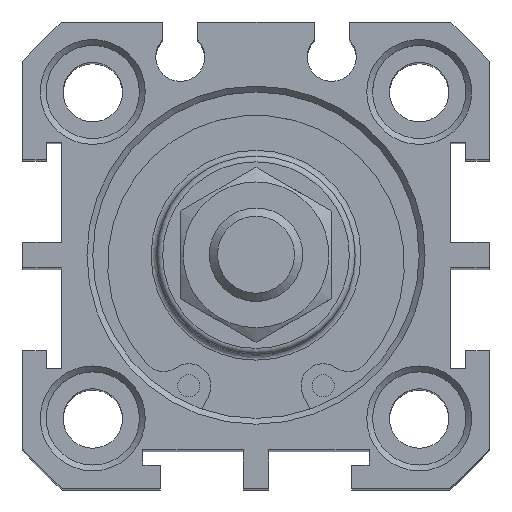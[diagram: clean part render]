
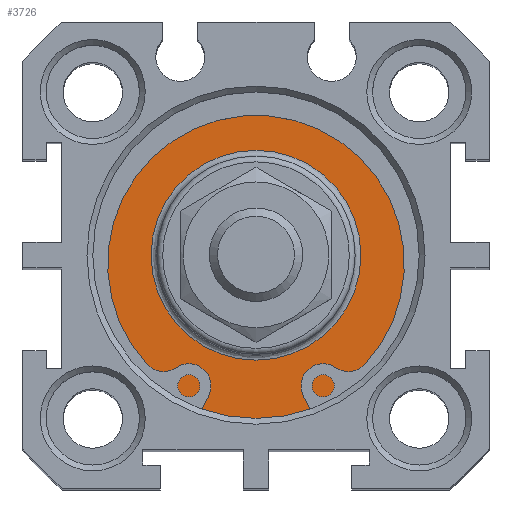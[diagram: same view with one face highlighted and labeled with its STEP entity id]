
A CAD part, top view. The second image highlights one B-rep face of the part: STEP entity #3726.
In plain terms, the highlighted planar face has unit normal (0, 0, 1).
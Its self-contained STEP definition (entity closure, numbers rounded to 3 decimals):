
#3675=CARTESIAN_POINT('',(0.12,10.914,78.3));
#3676=VERTEX_POINT('',#3675);
#3677=CARTESIAN_POINT('',(0.12,1.914,78.3));
#3678=DIRECTION('',(0.0,0.0,1.0));
#3679=DIRECTION('',(0.0,-1.0,0.0));
#3680=AXIS2_PLACEMENT_3D('',#3677,#3678,#3679);
#3681=CIRCLE('',#3680,9.);
#3682=EDGE_CURVE('',#3676,#3676,#3681,.T.);
#3707=CARTESIAN_POINT('',(0.12,13.164,78.3));
#3708=DIRECTION('',(0.0,0.0,1.0));
#3709=DIRECTION('',(1.0,0.0,0.0));
#3710=AXIS2_PLACEMENT_3D('',#3707,#3708,#3709);
#3711=PLANE('',#3710);
#3712=CARTESIAN_POINT('',(0.12,15.914,78.3));
#3713=VERTEX_POINT('',#3712);
#3714=CARTESIAN_POINT('',(0.12,1.914,78.3));
#3715=DIRECTION('',(0.0,0.0,-1.0));
#3716=DIRECTION('',(0.0,1.0,0.0));
#3717=AXIS2_PLACEMENT_3D('',#3714,#3715,#3716);
#3718=CIRCLE('',#3717,14.);
#3719=EDGE_CURVE('',#3713,#3713,#3718,.T.);
#3720=ORIENTED_EDGE('',*,*,#3719,.F.);
#3721=EDGE_LOOP('',(#3720));
#3722=FACE_OUTER_BOUND('',#3721,.T.);
#3723=ORIENTED_EDGE('',*,*,#3682,.F.);
#3724=EDGE_LOOP('',(#3723));
#3725=FACE_BOUND('',#3724,.T.);
#3726=ADVANCED_FACE('',(#3722,#3725),#3711,.T.);
